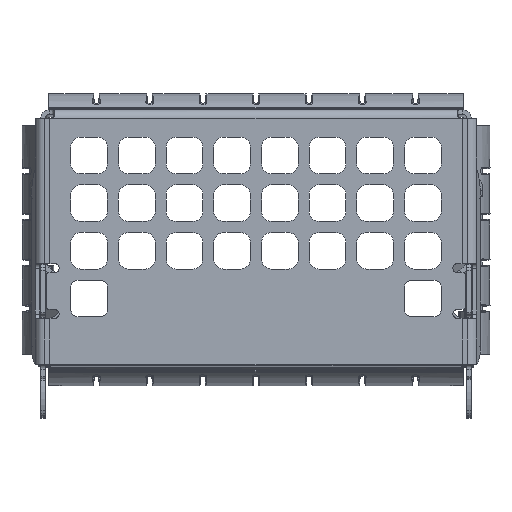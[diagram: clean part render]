
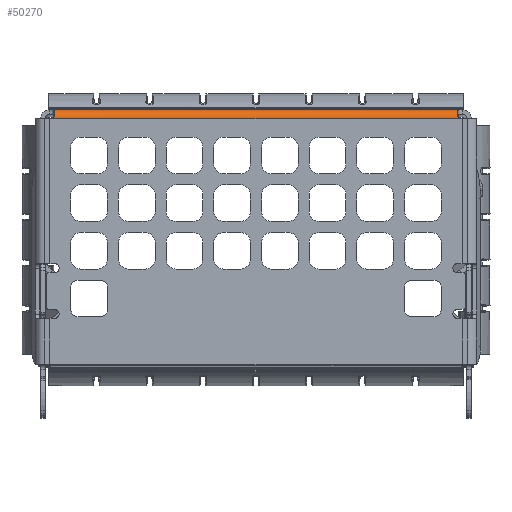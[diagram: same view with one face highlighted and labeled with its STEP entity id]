
A CAD part, top view. The second image highlights one B-rep face of the part: STEP entity #50270.
In plain terms, the highlighted cylindrical face has radius 0.5 mm (diameter 1 mm), a partial arc.
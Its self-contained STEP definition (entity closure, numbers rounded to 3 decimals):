
#2304=CARTESIAN_POINT('',(-11.24,6.45,91.));
#2305=CARTESIAN_POINT('',(-11.209,6.45,91.));
#2306=CARTESIAN_POINT('',(-11.151,6.466,91.));
#2307=CARTESIAN_POINT('',(-11.074,6.532,90.996));
#2308=CARTESIAN_POINT('',(-11.017,6.627,90.972));
#2309=CARTESIAN_POINT('',(-10.982,6.738,90.917));
#2310=CARTESIAN_POINT('',(-10.978,6.847,90.815));
#2311=CARTESIAN_POINT('',(-11.009,6.916,90.695));
#2312=CARTESIAN_POINT('',(-11.066,6.944,90.591));
#2313=CARTESIAN_POINT('',(-11.148,6.951,90.517));
#2314=CARTESIAN_POINT('',(-11.208,6.95,90.5));
#2315=CARTESIAN_POINT('',(-11.24,6.95,90.5));
#2317=DIRECTION('',(1.,0.,0.));
#2318=VECTOR('',#2317,22.48);
#2319=CARTESIAN_POINT('',(-11.24,6.95,90.5));
#2320=LINE('',#2319,#2318);
#2321=CARTESIAN_POINT('',(11.24,6.95,90.5));
#2322=CARTESIAN_POINT('',(11.209,6.95,90.5));
#2323=CARTESIAN_POINT('',(11.151,6.95,90.516));
#2324=CARTESIAN_POINT('',(11.074,6.946,90.582));
#2325=CARTESIAN_POINT('',(11.017,6.922,90.677));
#2326=CARTESIAN_POINT('',(10.982,6.867,90.788));
#2327=CARTESIAN_POINT('',(10.978,6.765,90.897));
#2328=CARTESIAN_POINT('',(11.009,6.645,90.966));
#2329=CARTESIAN_POINT('',(11.066,6.541,90.994));
#2330=CARTESIAN_POINT('',(11.148,6.467,91.001));
#2331=CARTESIAN_POINT('',(11.208,6.45,91.));
#2332=CARTESIAN_POINT('',(11.24,6.45,91.));
#2334=DIRECTION('',(-1.,0.,0.));
#2335=VECTOR('',#2334,22.48);
#2336=CARTESIAN_POINT('',(11.24,6.45,91.));
#2337=LINE('',#2336,#2335);
#38654=CARTESIAN_POINT('',(-11.24,6.45,91.));
#38655=VERTEX_POINT('',#38654);
#38656=CARTESIAN_POINT('',(11.24,6.45,91.));
#38657=VERTEX_POINT('',#38656);
#39325=CARTESIAN_POINT('',(-11.24,6.95,90.5));
#39326=VERTEX_POINT('',#39325);
#39328=VERTEX_POINT('',#2321);
#50258=CARTESIAN_POINT('',(11.24,6.45,90.5));
#50259=DIRECTION('',(-1.,0.,0.));
#50260=DIRECTION('',(0.,0.,1.));
#50261=AXIS2_PLACEMENT_3D('',#50258,#50259,#50260);
#50262=CYLINDRICAL_SURFACE('',#50261,0.5);
#50263=ORIENTED_EDGE('',*,*,#49411,.T.);
#50265=ORIENTED_EDGE('',*,*,#50264,.T.);
#50266=ORIENTED_EDGE('',*,*,#49491,.T.);
#50267=ORIENTED_EDGE('',*,*,#48564,.T.);
#50268=EDGE_LOOP('',(#50263,#50265,#50266,#50267));
#50269=FACE_OUTER_BOUND('',#50268,.F.);
#50270=ADVANCED_FACE('',(#50269),#50262,.T.);
#2316=B_SPLINE_CURVE_WITH_KNOTS('',3,(#2304,#2305,#2306,#2307,#2308,#2309,#2310,
#2311,#2312,#2313,#2314,#2315),.UNSPECIFIED.,.F.,.F.,(4,1,1,1,1,1,1,1,1,4),
(0.,0.111,0.222,0.333,0.444,
0.556,0.667,0.778,0.889,1.),
.UNSPECIFIED.);
#2333=B_SPLINE_CURVE_WITH_KNOTS('',3,(#2321,#2322,#2323,#2324,#2325,#2326,#2327,
#2328,#2329,#2330,#2331,#2332),.UNSPECIFIED.,.F.,.F.,(4,1,1,1,1,1,1,1,1,4),
(0.,0.111,0.222,0.333,0.444,
0.556,0.667,0.778,0.889,1.),
.UNSPECIFIED.);
#48564=EDGE_CURVE('',#38657,#38655,#2337,.T.);
#49411=EDGE_CURVE('',#38655,#39326,#2316,.T.);
#49491=EDGE_CURVE('',#39328,#38657,#2333,.T.);
#50264=EDGE_CURVE('',#39326,#39328,#2320,.T.);
